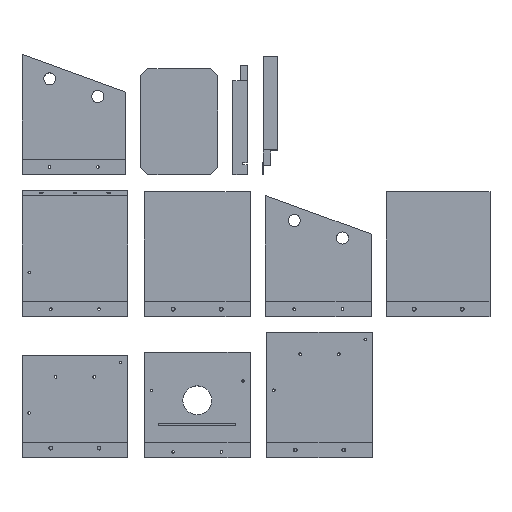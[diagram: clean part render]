
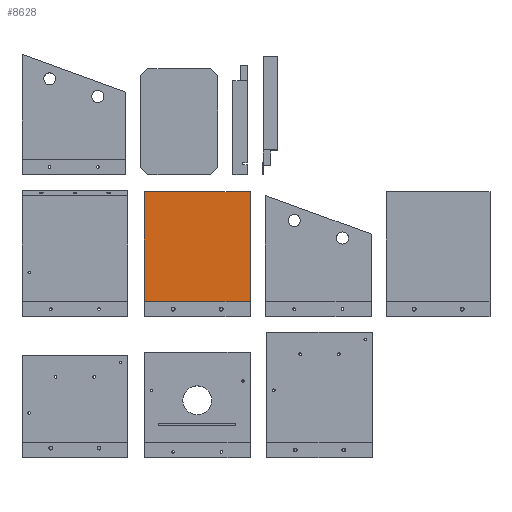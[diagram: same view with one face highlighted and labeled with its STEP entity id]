
A CAD part, top view. The second image highlights one B-rep face of the part: STEP entity #8628.
In plain terms, the highlighted planar face has unit normal (0, 0, 1).
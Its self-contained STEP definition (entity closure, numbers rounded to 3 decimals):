
#8248 = VERTEX_POINT('',#8249);
#8249 = CARTESIAN_POINT('',(161.289,350.806,19.05));
#8258 = PLANE('',#8259);
#8259 = AXIS2_PLACEMENT_3D('',#8260,#8261,#8262);
#8260 = CARTESIAN_POINT('',(161.289,350.806,19.05));
#8261 = DIRECTION('',(0.,-1.,0.));
#8262 = DIRECTION('',(1.,0.,0.));
#8270 = PLANE('',#8271);
#8271 = AXIS2_PLACEMENT_3D('',#8272,#8273,#8274);
#8272 = CARTESIAN_POINT('',(161.289,46.006,19.05));
#8273 = DIRECTION('',(1.,0.,0.));
#8274 = DIRECTION('',(0.,1.,0.));
#8311 = VERTEX_POINT('',#8312);
#8312 = CARTESIAN_POINT('',(300.989,350.806,19.05));
#8326 = PLANE('',#8327);
#8327 = AXIS2_PLACEMENT_3D('',#8328,#8329,#8330);
#8328 = CARTESIAN_POINT('',(300.989,350.806,19.05));
#8329 = DIRECTION('',(-1.,-0.,0.));
#8330 = DIRECTION('',(0.,-1.,0.));
#8338 = EDGE_CURVE('',#8248,#8311,#8339,.T.);
#8339 = SURFACE_CURVE('',#8340,(#8344,#8351),.PCURVE_S1.);
#8340 = LINE('',#8341,#8342);
#8341 = CARTESIAN_POINT('',(161.289,350.806,19.05));
#8342 = VECTOR('',#8343,1.);
#8343 = DIRECTION('',(1.,0.,0.));
#8344 = PCURVE('',#8258,#8345);
#8345 = DEFINITIONAL_REPRESENTATION('',(#8346),#8350);
#8346 = LINE('',#8347,#8348);
#8347 = CARTESIAN_POINT('',(0.,0.));
#8348 = VECTOR('',#8349,1.);
#8349 = DIRECTION('',(1.,0.));
#8350 = ( GEOMETRIC_REPRESENTATION_CONTEXT(2) 
PARAMETRIC_REPRESENTATION_CONTEXT() REPRESENTATION_CONTEXT('2D SPACE',''
  ) );
#8351 = PCURVE('',#8352,#8357);
#8352 = PLANE('',#8353);
#8353 = AXIS2_PLACEMENT_3D('',#8354,#8355,#8356);
#8354 = CARTESIAN_POINT('',(226.95,208.868,19.05));
#8355 = DIRECTION('',(0.,0.,-1.));
#8356 = DIRECTION('',(1.,0.,0.));
#8357 = DEFINITIONAL_REPRESENTATION('',(#8358),#8362);
#8358 = LINE('',#8359,#8360);
#8359 = CARTESIAN_POINT('',(-65.661,-141.937));
#8360 = VECTOR('',#8361,1.);
#8361 = DIRECTION('',(1.,0.));
#8362 = ( GEOMETRIC_REPRESENTATION_CONTEXT(2) 
PARAMETRIC_REPRESENTATION_CONTEXT() REPRESENTATION_CONTEXT('2D SPACE',''
  ) );
#8367 = EDGE_CURVE('',#8368,#8248,#8370,.T.);
#8368 = VERTEX_POINT('',#8369);
#8369 = CARTESIAN_POINT('',(161.289,205.806,19.05));
#8370 = SURFACE_CURVE('',#8371,(#8375,#8382),.PCURVE_S1.);
#8371 = LINE('',#8372,#8373);
#8372 = CARTESIAN_POINT('',(161.289,46.006,19.05));
#8373 = VECTOR('',#8374,1.);
#8374 = DIRECTION('',(0.,1.,0.));
#8375 = PCURVE('',#8270,#8376);
#8376 = DEFINITIONAL_REPRESENTATION('',(#8377),#8381);
#8377 = LINE('',#8378,#8379);
#8378 = CARTESIAN_POINT('',(0.,0.));
#8379 = VECTOR('',#8380,1.);
#8380 = DIRECTION('',(1.,0.));
#8381 = ( GEOMETRIC_REPRESENTATION_CONTEXT(2) 
PARAMETRIC_REPRESENTATION_CONTEXT() REPRESENTATION_CONTEXT('2D SPACE',''
  ) );
#8382 = PCURVE('',#8352,#8383);
#8383 = DEFINITIONAL_REPRESENTATION('',(#8384),#8388);
#8384 = LINE('',#8385,#8386);
#8385 = CARTESIAN_POINT('',(-65.661,162.863));
#8386 = VECTOR('',#8387,1.);
#8387 = DIRECTION('',(0.,-1.));
#8388 = ( GEOMETRIC_REPRESENTATION_CONTEXT(2) 
PARAMETRIC_REPRESENTATION_CONTEXT() REPRESENTATION_CONTEXT('2D SPACE',''
  ) );
#8406 = PLANE('',#8407);
#8407 = AXIS2_PLACEMENT_3D('',#8408,#8409,#8410);
#8408 = CARTESIAN_POINT('',(161.289,205.806,19.05));
#8409 = DIRECTION('',(0.,-1.,0.));
#8410 = DIRECTION('',(0.,0.,-1.));
#8502 = EDGE_CURVE('',#8311,#8503,#8505,.T.);
#8503 = VERTEX_POINT('',#8504);
#8504 = CARTESIAN_POINT('',(300.989,205.806,19.05));
#8505 = SURFACE_CURVE('',#8506,(#8510,#8517),.PCURVE_S1.);
#8506 = LINE('',#8507,#8508);
#8507 = CARTESIAN_POINT('',(300.989,350.806,19.05));
#8508 = VECTOR('',#8509,1.);
#8509 = DIRECTION('',(0.,-1.,0.));
#8510 = PCURVE('',#8326,#8511);
#8511 = DEFINITIONAL_REPRESENTATION('',(#8512),#8516);
#8512 = LINE('',#8513,#8514);
#8513 = CARTESIAN_POINT('',(0.,0.));
#8514 = VECTOR('',#8515,1.);
#8515 = DIRECTION('',(1.,0.));
#8516 = ( GEOMETRIC_REPRESENTATION_CONTEXT(2) 
PARAMETRIC_REPRESENTATION_CONTEXT() REPRESENTATION_CONTEXT('2D SPACE',''
  ) );
#8517 = PCURVE('',#8352,#8518);
#8518 = DEFINITIONAL_REPRESENTATION('',(#8519),#8523);
#8519 = LINE('',#8520,#8521);
#8520 = CARTESIAN_POINT('',(74.039,-141.937));
#8521 = VECTOR('',#8522,1.);
#8522 = DIRECTION('',(0.,1.));
#8523 = ( GEOMETRIC_REPRESENTATION_CONTEXT(2) 
PARAMETRIC_REPRESENTATION_CONTEXT() REPRESENTATION_CONTEXT('2D SPACE',''
  ) );
#8628 = ADVANCED_FACE('',(#8629),#8352,.F.);
#8629 = FACE_BOUND('',#8630,.F.);
#8630 = EDGE_LOOP('',(#8631,#8632,#8633,#8634));
#8631 = ORIENTED_EDGE('',*,*,#8367,.T.);
#8632 = ORIENTED_EDGE('',*,*,#8338,.T.);
#8633 = ORIENTED_EDGE('',*,*,#8502,.T.);
#8634 = ORIENTED_EDGE('',*,*,#8635,.F.);
#8635 = EDGE_CURVE('',#8368,#8503,#8636,.T.);
#8636 = SURFACE_CURVE('',#8637,(#8641,#8648),.PCURVE_S1.);
#8637 = LINE('',#8638,#8639);
#8638 = CARTESIAN_POINT('',(161.289,205.806,19.05));
#8639 = VECTOR('',#8640,1.);
#8640 = DIRECTION('',(1.,0.,0.));
#8641 = PCURVE('',#8352,#8642);
#8642 = DEFINITIONAL_REPRESENTATION('',(#8643),#8647);
#8643 = LINE('',#8644,#8645);
#8644 = CARTESIAN_POINT('',(-65.661,3.063));
#8645 = VECTOR('',#8646,1.);
#8646 = DIRECTION('',(1.,0.));
#8647 = ( GEOMETRIC_REPRESENTATION_CONTEXT(2) 
PARAMETRIC_REPRESENTATION_CONTEXT() REPRESENTATION_CONTEXT('2D SPACE',''
  ) );
#8648 = PCURVE('',#8406,#8649);
#8649 = DEFINITIONAL_REPRESENTATION('',(#8650),#8654);
#8650 = LINE('',#8651,#8652);
#8651 = CARTESIAN_POINT('',(0.,0.));
#8652 = VECTOR('',#8653,1.);
#8653 = DIRECTION('',(0.,1.));
#8654 = ( GEOMETRIC_REPRESENTATION_CONTEXT(2) 
PARAMETRIC_REPRESENTATION_CONTEXT() REPRESENTATION_CONTEXT('2D SPACE',''
  ) );
